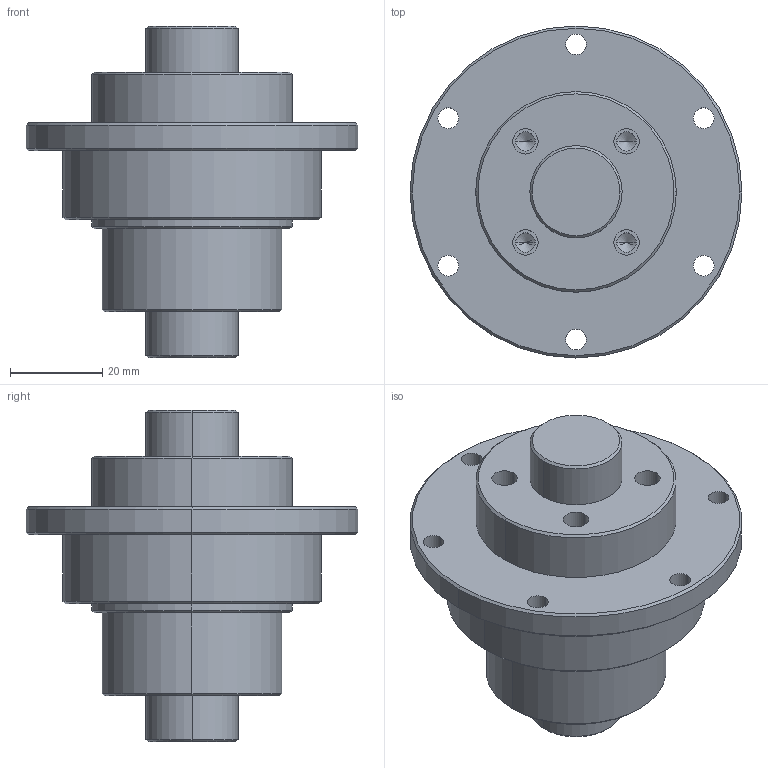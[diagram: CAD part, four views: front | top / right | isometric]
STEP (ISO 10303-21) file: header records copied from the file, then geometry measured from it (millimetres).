
FILE_DESCRIPTION (( 'STEP AP203' ), '1' );
FILE_NAME ('RFSY2020.STEP', '2014-11-13T05:13:36', ( '' ), ( '' ), 'SwSTEP 2.0', 'SolidWorks 2014', '' );
FILE_SCHEMA (( 'CONFIG_CONTROL_DESIGN' ));
Length unit declared in the file: millimetre
Products named in the file (1): RFSY2020
Bounding box: 72 x 72 x 72 mm (x, y, z)
Volume: 106694 mm3; surface area: 24758.7 mm2
Topology: 2 solids, 2 shells, 78 faces, 174 edges, 104 vertices
Faces by surface type: cylinder 42, cone 24, plane 12
Entity records: 2233 total; most frequent: DIRECTION 424, CARTESIAN_POINT 349, ORIENTED_EDGE 332, AXIS2_PLACEMENT_3D 179, EDGE_CURVE 166, VERTEX_POINT 104, EDGE_LOOP 104, CIRCLE 100
